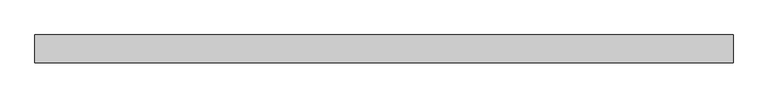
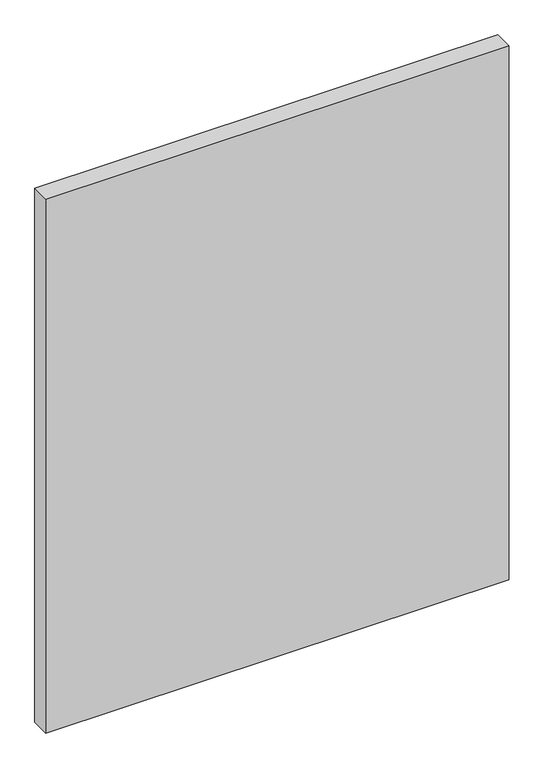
"""IFC4 building model written with IfcOpenShell, lengths in millimetres: proxy geometry."""

from ifc_helpers import new_model, si_unit, origin, origin_with_axes, place, context, project, spatial, polyline, outline, extrude, source, transform, mapped, element, save


def generic_models_33b79f84(model_context):
    return source(origin(), model_context, "Body", "SweptSolid", [
        extrude(outline(polyline([(-2500.0, 0.0), (0.0, 0.0), (0.0, -100.0), (-2500.0, -100.0), (-2500.0, 0.0)])), origin_with_axes(), (0.0, 0.0, 1.0), 3045.0),
    ])


if __name__ == "__main__":
    model = new_model("IFC4")
    model_context = context("Model", 3, world=origin())
    ifc_project = project(units=[si_unit("LENGTHUNIT", "METRE", prefix="MILLI")], contexts=[model_context])
    site = spatial("IfcSite", under=ifc_project)
    building = spatial("IfcBuilding", under=site)
    placement = place(None, origin())
    generic_models_shape = generic_models_33b79f84(model_context)
    element("IfcBuildingElementProxy", 1, Name="Generic Models", at=placement, inside=building, context=model_context, shape_type="MappedRepresentation", body=[
        mapped(generic_models_shape, transform((0.0, 0.0, 0.0), x_axis=(1.0, 0.0, 0.0), y_axis=(0.0, 1.0, 0.0), z_axis=(0.0, 0.0, 1.0))),
    ])
    save(model, "model.ifc")
